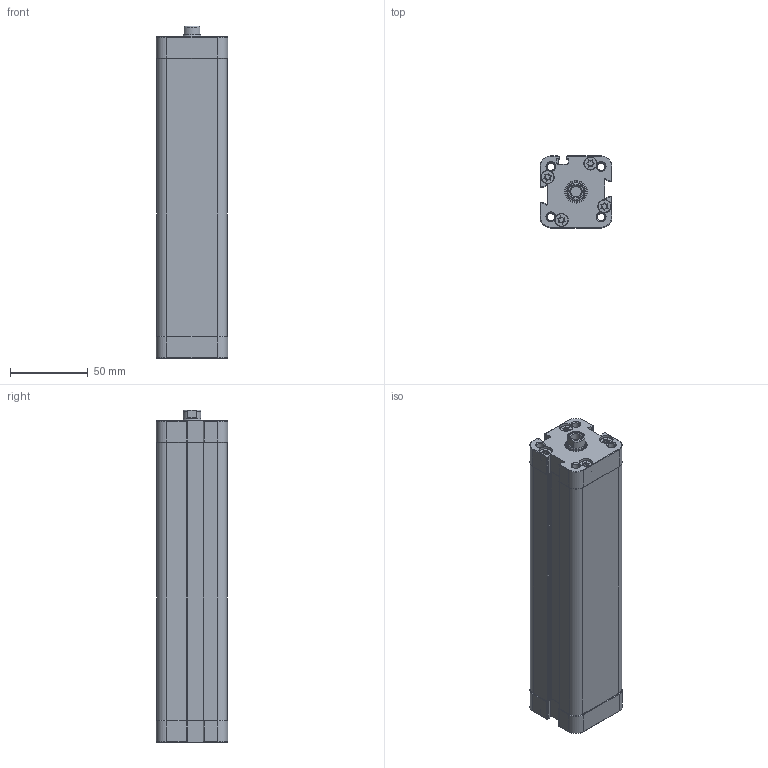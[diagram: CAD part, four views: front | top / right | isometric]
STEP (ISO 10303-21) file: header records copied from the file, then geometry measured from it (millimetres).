
FILE_DESCRIPTION (( 'STEP AP214' ), '1' );
FILE_NAME ('25_15483.STEP', '2017-01-05T10:53:05', ( '' ), ( '' ), 'SwSTEP 2.0', 'SolidWorks 2016', '' );
FILE_SCHEMA (( 'AUTOMOTIVE_DESIGN' ));
Length unit declared in the file: millimetre
Products named in the file (1): 25_15483
Bounding box: 46 x 46 x 213 mm (x, y, z)
Volume: 350268.7 mm3; surface area: 85515.8 mm2
Topology: 13 solids, 13 shells, 787 faces, 1906 edges, 1166 vertices
Faces by surface type: cylinder 318, plane 291, torus 100, cone 78
Entity records: 31853 total; most frequent: DIRECTION 4196, CARTESIAN_POINT 4184, ORIENTED_EDGE 3812, EDGE_CURVE 1906, AXIS2_PLACEMENT_3D 1574, VERTEX_POINT 1166, LINE 1048, VECTOR 1048
